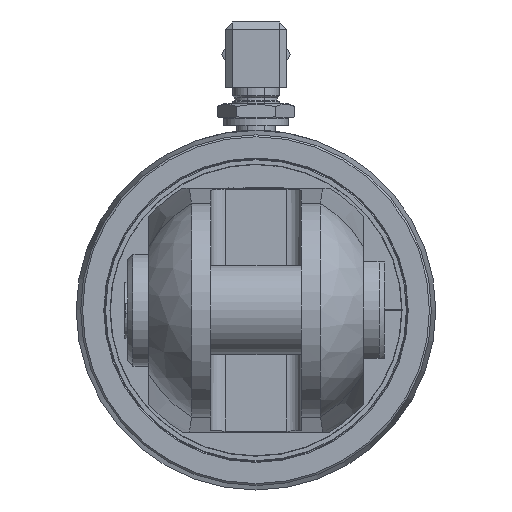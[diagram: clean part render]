
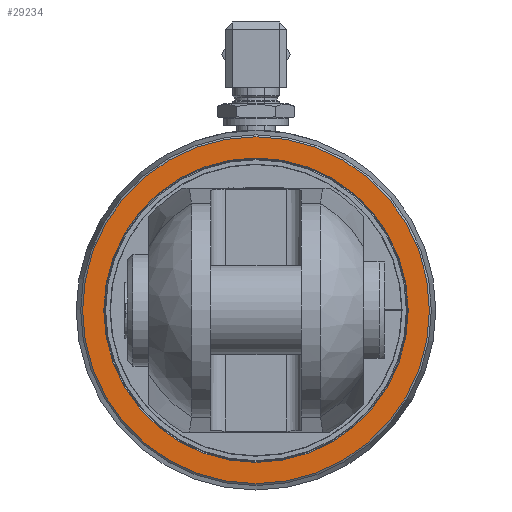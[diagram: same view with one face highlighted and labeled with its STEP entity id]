
A CAD part, left-side view. The second image highlights one B-rep face of the part: STEP entity #29234.
In plain terms, the highlighted planar face has unit normal (-1, 0, 0).
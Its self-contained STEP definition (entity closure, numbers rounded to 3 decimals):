
#845=PLANE('',#31022);
#1744=CIRCLE('',#31019,49.288);
#1746=CIRCLE('',#31023,43.25);
#3521=FACE_BOUND('',#5631,.T.);
#3935=FACE_OUTER_BOUND('',#5630,.T.);
#5630=EDGE_LOOP('',(#21470));
#5631=EDGE_LOOP('',(#21471));
#13993=VERTEX_POINT('',#38476);
#13995=VERTEX_POINT('',#38482);
#16911=EDGE_CURVE('',#13993,#13993,#1744,.T.);
#16913=EDGE_CURVE('',#13995,#13995,#1746,.T.);
#21470=ORIENTED_EDGE('',*,*,#16911,.F.);
#21471=ORIENTED_EDGE('',*,*,#16913,.F.);
#29234=ADVANCED_FACE('',(#3935,#3521),#845,.F.);
#31019=AXIS2_PLACEMENT_3D('',#38477,#32908,#32909);
#31022=AXIS2_PLACEMENT_3D('',#38481,#32914,#32915);
#31023=AXIS2_PLACEMENT_3D('',#38483,#32916,#32917);
#32908=DIRECTION('center_axis',(1.,0.,0.));
#32909=DIRECTION('ref_axis',(0.,-1.,0.));
#32914=DIRECTION('center_axis',(1.,0.,0.));
#32915=DIRECTION('ref_axis',(0.,0.,-1.));
#32916=DIRECTION('center_axis',(-1.,0.,0.));
#32917=DIRECTION('ref_axis',(0.,-1.,0.));
#38476=CARTESIAN_POINT('',(-1336.5,49.288,0.));
#38477=CARTESIAN_POINT('Origin',(-1336.5,0.,0.));
#38481=CARTESIAN_POINT('Origin',(-1336.5,0.,0.));
#38482=CARTESIAN_POINT('',(-1336.5,43.25,0.));
#38483=CARTESIAN_POINT('Origin',(-1336.5,0.,0.));
